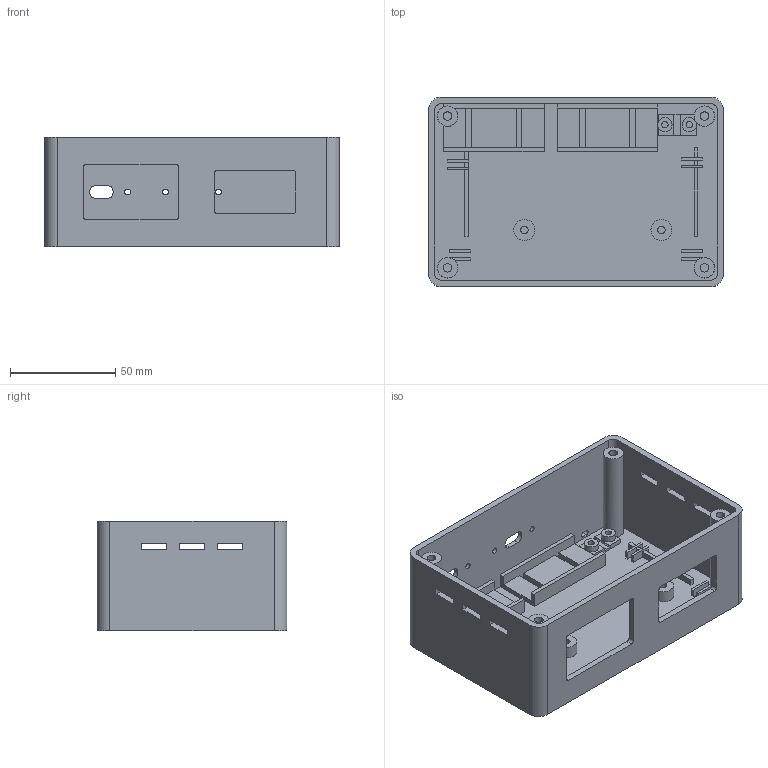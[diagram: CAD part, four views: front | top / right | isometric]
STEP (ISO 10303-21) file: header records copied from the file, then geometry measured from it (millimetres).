
FILE_DESCRIPTION(('Open CASCADE Model'),'2;1');
FILE_NAME('Open CASCADE Shape Model','2026-07-22T08:32:17',('Author'),( 'Open CASCADE'),'Open CASCADE STEP processor 7.9','Open CASCADE 7.9' ,'Unknown');
FILE_SCHEMA(('AUTOMOTIVE_DESIGN { 1 0 10303 214 1 1 1 1 }'));
Length unit declared in the file: millimetre
Products named in the file (1): Open CASCADE STEP translator 7.9 1
Bounding box: 140 x 90 x 52 mm (x, y, z)
Volume: 117482.2 mm3; surface area: 77430.5 mm2
Topology: 1 solids, 1 shells, 588 faces, 1608 edges, 1072 vertices
Faces by surface type: plane 411, extrusion 117, cylinder 60
Full cylindrical faces by diameter (mm): 2.8 x4, 3.1 x2, 3.6 x2, 4.1 x4, 6.8 x2, 9.6 x4, 10 x2
Entity records: 40706 total; most frequent: CARTESIAN_POINT 10725, DIRECTION 4620, VECTOR 3326, ORIENTED_EDGE 3216, PCURVE 3216, DEFINITIONAL_REPRESENTATION 3216, LINE 3209, EDGE_CURVE 1608
